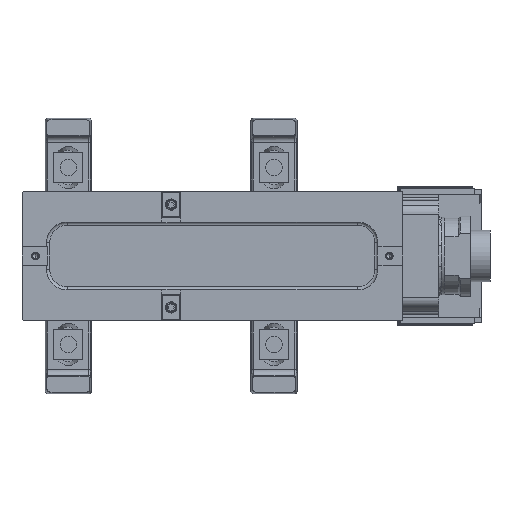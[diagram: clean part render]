
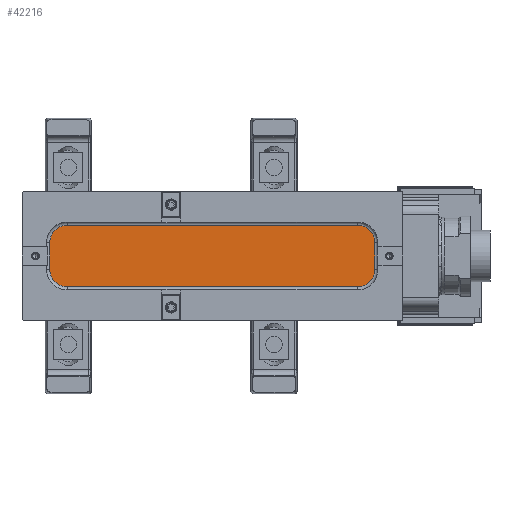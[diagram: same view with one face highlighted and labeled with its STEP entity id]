
A CAD part, front view. The second image highlights one B-rep face of the part: STEP entity #42216.
In plain terms, the highlighted planar face has unit normal (0, -1, 0).
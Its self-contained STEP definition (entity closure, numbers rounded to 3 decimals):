
#2965 = AXIS2_PLACEMENT_3D ( 'NONE', #32550, #59382, #36976 ) ;
#3471 = CARTESIAN_POINT ( 'NONE',  ( 181., -44., 13. ) ) ;
#3865 = FACE_OUTER_BOUND ( 'NONE', #36215, .T. ) ;
#4413 = VERTEX_POINT ( 'NONE', #37070 ) ;
#5169 = LINE ( 'NONE', #72362, #70263 ) ;
#7301 = DIRECTION ( 'NONE',  ( 0., 0., -1. ) ) ;
#7404 = ORIENTED_EDGE ( 'NONE', *, *, #31660, .T. ) ;
#8035 = ORIENTED_EDGE ( 'NONE', *, *, #32189, .T. ) ;
#9438 = EDGE_CURVE ( 'NONE', #72631, #51508, #41444, .T. ) ;
#10808 = CARTESIAN_POINT ( 'NONE',  ( -101., -44., 30. ) ) ;
#11328 = VERTEX_POINT ( 'NONE', #28742 ) ;
#11957 = DIRECTION ( 'NONE',  ( 0., -1., 0. ) ) ;
#13702 = EDGE_CURVE ( 'NONE', #48975, #72631, #35266, .T. ) ;
#16325 = CARTESIAN_POINT ( 'NONE',  ( 181., -44., -30. ) ) ;
#19254 = LINE ( 'NONE', #57810, #23853 ) ;
#20128 = DIRECTION ( 'NONE',  ( 0., -1., 0. ) ) ;
#20925 = CIRCLE ( 'NONE', #61972, 17. ) ;
#21126 = DIRECTION ( 'NONE',  ( 0., 0., -1. ) ) ;
#21216 = CARTESIAN_POINT ( 'NONE',  ( -118., -44., -13. ) ) ;
#21936 = ORIENTED_EDGE ( 'NONE', *, *, #9438, .T. ) ;
#22069 = EDGE_CURVE ( 'NONE', #11328, #71695, #19254, .T. ) ;
#23726 = ORIENTED_EDGE ( 'NONE', *, *, #40426, .T. ) ;
#23853 = VECTOR ( 'NONE', #69501, 1000. ) ;
#25226 = CIRCLE ( 'NONE', #59222, 17. ) ;
#25696 = AXIS2_PLACEMENT_3D ( 'NONE', #61891, #11957, #57837 ) ;
#25929 = DIRECTION ( 'NONE',  ( 0., 0., -1. ) ) ;
#26278 = DIRECTION ( 'NONE',  ( 0., -1., 0. ) ) ;
#26603 = ORIENTED_EDGE ( 'NONE', *, *, #46944, .T. ) ;
#28742 = CARTESIAN_POINT ( 'NONE',  ( 181., -44., 30. ) ) ;
#31660 = EDGE_CURVE ( 'NONE', #51508, #44451, #49741, .T. ) ;
#31791 = CARTESIAN_POINT ( 'NONE',  ( -101., -44., 13. ) ) ;
#32189 = EDGE_CURVE ( 'NONE', #71695, #48975, #20925, .T. ) ;
#32550 = CARTESIAN_POINT ( 'NONE',  ( 0., -44., 0. ) ) ;
#32646 = CARTESIAN_POINT ( 'NONE',  ( -118., -44., 13. ) ) ;
#32903 = CARTESIAN_POINT ( 'NONE',  ( 0., -44., -30. ) ) ;
#35206 = VERTEX_POINT ( 'NONE', #48919 ) ;
#35266 = LINE ( 'NONE', #39682, #67946 ) ;
#35609 = AXIS2_PLACEMENT_3D ( 'NONE', #70381, #20128, #64875 ) ;
#36215 = EDGE_LOOP ( 'NONE', ( #23726, #65558, #8035, #62053, #21936, #7404, #46790, #26603 ) ) ;
#36976 = DIRECTION ( 'NONE',  ( 0., 0., -1. ) ) ;
#37070 = CARTESIAN_POINT ( 'NONE',  ( 198., -44., 13. ) ) ;
#37691 = PLANE ( 'NONE',  #2965 ) ;
#39682 = CARTESIAN_POINT ( 'NONE',  ( -118., -44., 0. ) ) ;
#40426 = EDGE_CURVE ( 'NONE', #4413, #11328, #25226, .T. ) ;
#41444 = CIRCLE ( 'NONE', #35609, 17. ) ;
#42216 = ADVANCED_FACE ( 'NONE', ( #3865 ), #37691, .T. ) ;
#44451 = VERTEX_POINT ( 'NONE', #16325 ) ;
#46790 = ORIENTED_EDGE ( 'NONE', *, *, #68633, .T. ) ;
#46944 = EDGE_CURVE ( 'NONE', #35206, #4413, #5169, .T. ) ;
#48919 = CARTESIAN_POINT ( 'NONE',  ( 198., -44., -13. ) ) ;
#48975 = VERTEX_POINT ( 'NONE', #32646 ) ;
#49741 = LINE ( 'NONE', #32903, #66596 ) ;
#50484 = DIRECTION ( 'NONE',  ( 1., 0., 0. ) ) ;
#51508 = VERTEX_POINT ( 'NONE', #67604 ) ;
#57810 = CARTESIAN_POINT ( 'NONE',  ( 0., -44., 30. ) ) ;
#57837 = DIRECTION ( 'NONE',  ( 0., 0., -1. ) ) ;
#58492 = CIRCLE ( 'NONE', #25696, 17. ) ;
#59222 = AXIS2_PLACEMENT_3D ( 'NONE', #3471, #59683, #25929 ) ;
#59382 = DIRECTION ( 'NONE',  ( 0., -1., 0. ) ) ;
#59683 = DIRECTION ( 'NONE',  ( 0., -1., 0. ) ) ;
#60651 = DIRECTION ( 'NONE',  ( 0., 0., 1. ) ) ;
#61891 = CARTESIAN_POINT ( 'NONE',  ( 181., -44., -13. ) ) ;
#61972 = AXIS2_PLACEMENT_3D ( 'NONE', #31791, #26278, #21126 ) ;
#62053 = ORIENTED_EDGE ( 'NONE', *, *, #13702, .T. ) ;
#64875 = DIRECTION ( 'NONE',  ( 0., 0., -1. ) ) ;
#65558 = ORIENTED_EDGE ( 'NONE', *, *, #22069, .T. ) ;
#66596 = VECTOR ( 'NONE', #50484, 1000. ) ;
#67604 = CARTESIAN_POINT ( 'NONE',  ( -101., -44., -30. ) ) ;
#67946 = VECTOR ( 'NONE', #7301, 1000. ) ;
#68633 = EDGE_CURVE ( 'NONE', #44451, #35206, #58492, .T. ) ;
#69501 = DIRECTION ( 'NONE',  ( -1., 0., 0. ) ) ;
#70263 = VECTOR ( 'NONE', #60651, 1000. ) ;
#70381 = CARTESIAN_POINT ( 'NONE',  ( -101., -44., -13. ) ) ;
#71695 = VERTEX_POINT ( 'NONE', #10808 ) ;
#72362 = CARTESIAN_POINT ( 'NONE',  ( 198., -44., 0. ) ) ;
#72631 = VERTEX_POINT ( 'NONE', #21216 ) ;
